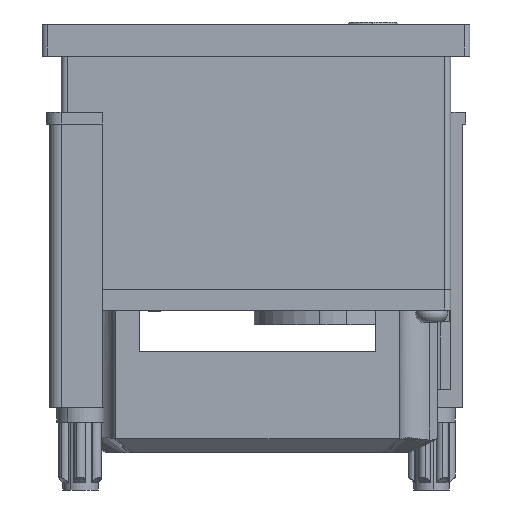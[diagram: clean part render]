
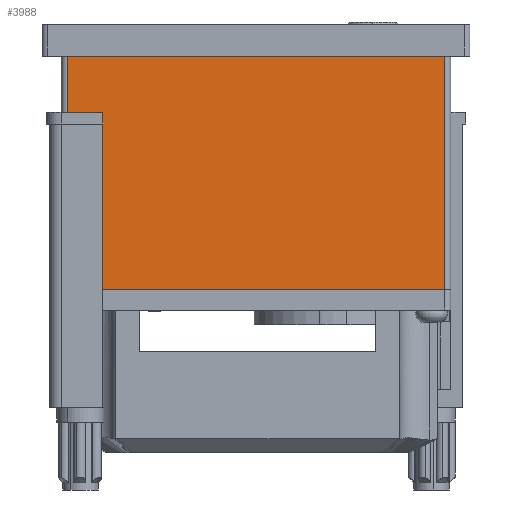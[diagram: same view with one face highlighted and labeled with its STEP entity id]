
A CAD part, front view. The second image highlights one B-rep face of the part: STEP entity #3988.
In plain terms, the highlighted planar face has unit normal (0, -1, 0).
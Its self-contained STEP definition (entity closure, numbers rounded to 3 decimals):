
#719 = AXIS2_PLACEMENT_3D ( 'NONE', #12043, #5718, #8758 ) ;
#940 = CARTESIAN_POINT ( 'NONE',  ( 29.13, -31.203, 26.598 ) ) ;
#2211 = VECTOR ( 'NONE', #8968, 1000. ) ;
#2296 = VECTOR ( 'NONE', #20513, 1000. ) ;
#2916 = VERTEX_POINT ( 'NONE', #7893 ) ;
#3988 = ADVANCED_FACE ( 'NONE', ( #5315 ), #17033, .T. ) ;
#4728 = LINE ( 'NONE', #940, #2211 ) ;
#5315 = FACE_OUTER_BOUND ( 'NONE', #5387, .T. ) ;
#5387 = EDGE_LOOP ( 'NONE', ( #13340, #16383, #17506, #18304 ) ) ;
#5634 = CARTESIAN_POINT ( 'NONE',  ( -104.521, -31.203, -12.902 ) ) ;
#5718 = DIRECTION ( 'NONE',  ( 0., -1., 0. ) ) ;
#6593 = EDGE_CURVE ( 'NONE', #8407, #6826, #4728, .T. ) ;
#6826 = VERTEX_POINT ( 'NONE', #17837 ) ;
#7893 = CARTESIAN_POINT ( 'NONE',  ( -34.87, -31.203, 26.598 ) ) ;
#8407 = VERTEX_POINT ( 'NONE', #18747 ) ;
#8758 = DIRECTION ( 'NONE',  ( 0., 0., -1. ) ) ;
#8968 = DIRECTION ( 'NONE',  ( 0., 0., 1. ) ) ;
#9646 = LINE ( 'NONE', #20653, #2296 ) ;
#10048 = CARTESIAN_POINT ( 'NONE',  ( -34.87, -31.203, 26.598 ) ) ;
#11850 = EDGE_CURVE ( 'NONE', #8407, #19933, #20681, .T. ) ;
#12043 = CARTESIAN_POINT ( 'NONE',  ( 30.13, -31.203, 26.598 ) ) ;
#12260 = EDGE_CURVE ( 'NONE', #2916, #19933, #15862, .T. ) ;
#12298 = VECTOR ( 'NONE', #17000, 1000. ) ;
#13340 = ORIENTED_EDGE ( 'NONE', *, *, #17328, .T. ) ;
#15003 = DIRECTION ( 'NONE',  ( 0., 0., -1. ) ) ;
#15862 = LINE ( 'NONE', #10048, #19376 ) ;
#16383 = ORIENTED_EDGE ( 'NONE', *, *, #12260, .T. ) ;
#17000 = DIRECTION ( 'NONE',  ( -1., 0., 0. ) ) ;
#17033 = PLANE ( 'NONE',  #719 ) ;
#17328 = EDGE_CURVE ( 'NONE', #6826, #2916, #9646, .T. ) ;
#17506 = ORIENTED_EDGE ( 'NONE', *, *, #11850, .F. ) ;
#17837 = CARTESIAN_POINT ( 'NONE',  ( 29.13, -31.203, 26.598 ) ) ;
#18030 = CARTESIAN_POINT ( 'NONE',  ( -34.87, -31.203, -12.902 ) ) ;
#18304 = ORIENTED_EDGE ( 'NONE', *, *, #6593, .T. ) ;
#18747 = CARTESIAN_POINT ( 'NONE',  ( 29.13, -31.203, -12.902 ) ) ;
#19376 = VECTOR ( 'NONE', #15003, 1000. ) ;
#19933 = VERTEX_POINT ( 'NONE', #18030 ) ;
#20513 = DIRECTION ( 'NONE',  ( -1., 0., 0. ) ) ;
#20653 = CARTESIAN_POINT ( 'NONE',  ( 30.13, -31.203, 26.598 ) ) ;
#20681 = LINE ( 'NONE', #5634, #12298 ) ;
